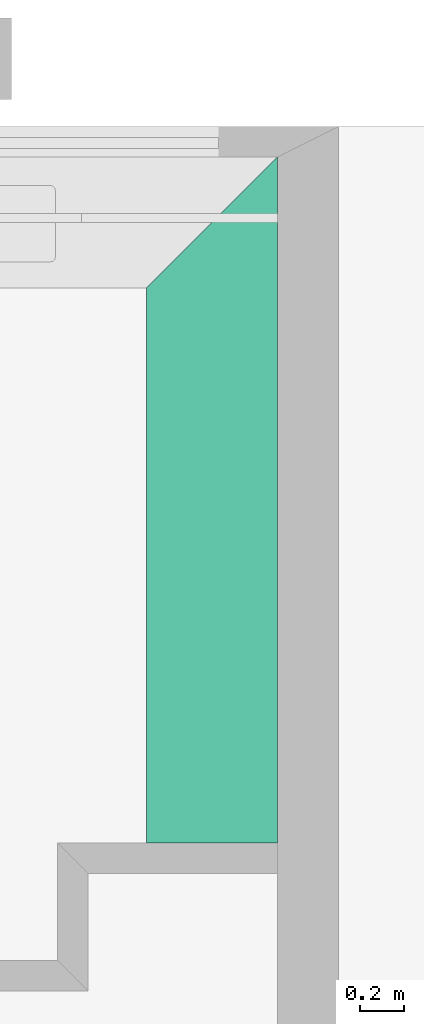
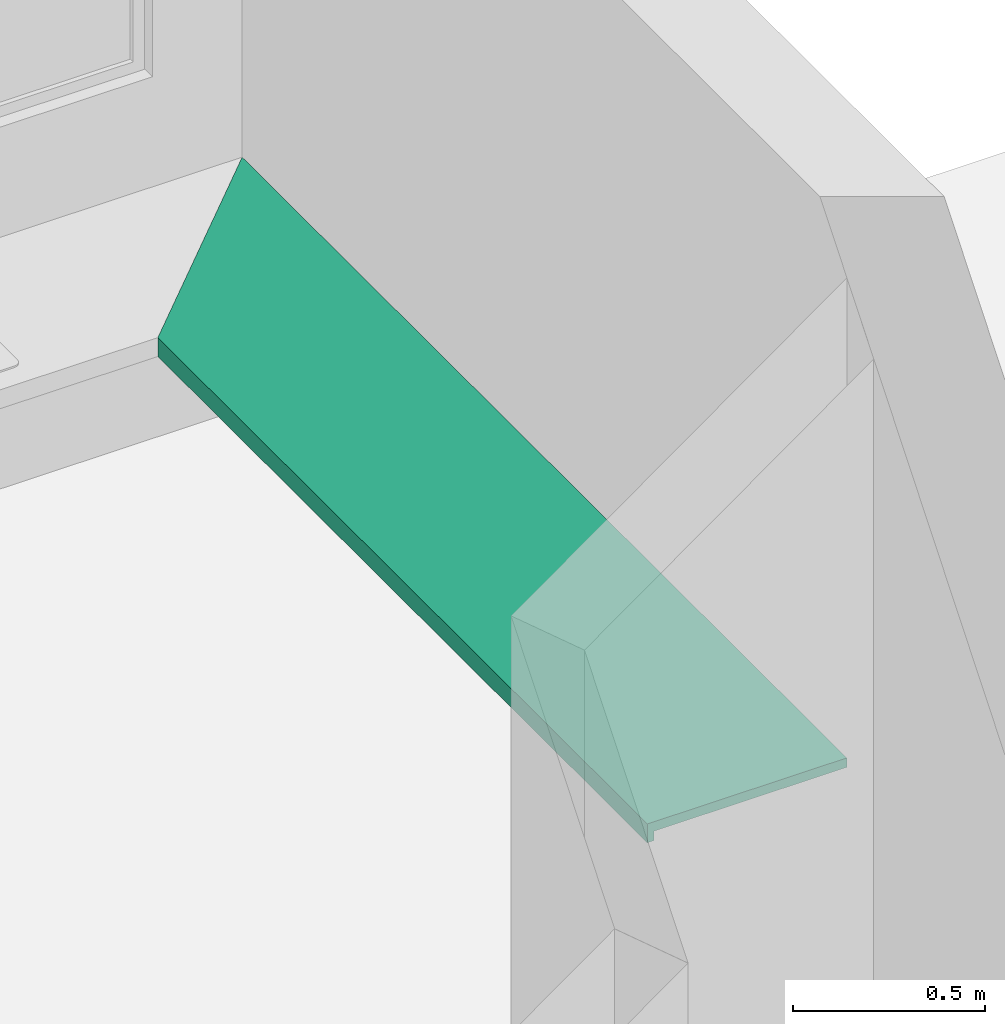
# One storey, part 14 of 16: 1 flow terminal.
"""IFC2X3 building model written with IfcOpenShell, lengths in millimetres."""

from ifc_helpers import new_model, entity, si_unit, converted_unit, derived_unit, money_unit, direction, frame, origin_with_axes, place, context, subcontext, project, spatial, faceted_brep, type_object, element, save


model = new_model("IFC2X3")

# Units and contexts
model_context = context("Model", 3, precision=0.01, world=origin_with_axes(), true_north=direction((0.293984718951, 0.955810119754)))
body_context = subcontext(model_context, "Body", "Model", "MODEL_VIEW")
ifc_project = project(units=[si_unit("LENGTHUNIT", "METRE", prefix="MILLI"), si_unit("AREAUNIT", "SQUARE_METRE"), si_unit("VOLUMEUNIT", "CUBIC_METRE"), converted_unit("PLANEANGLEUNIT", "DEGREE", entity("IfcPlaneAngleMeasure", 0.0174532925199), si_unit("PLANEANGLEUNIT", "RADIAN"), dimensions=[0, 0, 0, 0, 0, 0, 0]), si_unit("SOLIDANGLEUNIT", "STERADIAN"), money_unit("USD"), converted_unit("TIMEUNIT", "Year", entity("IfcTimeMeasure", 31556926.0), si_unit("TIMEUNIT", "SECOND"), dimensions=[0, 0, 1, 0, 0, 0, 0]), si_unit("MASSUNIT", "GRAM", prefix="KILO"), si_unit("THERMODYNAMICTEMPERATUREUNIT", "DEGREE_CELSIUS"), si_unit("LUMINOUSINTENSITYUNIT", "LUMEN"), si_unit("ENERGYUNIT", "JOULE", prefix="MEGA"), derived_unit("THERMALCONDUCTANCEUNIT", [(si_unit("POWERUNIT", "WATT"), 1), (si_unit("LENGTHUNIT", "METRE"), -1), (si_unit("THERMODYNAMICTEMPERATUREUNIT", "KELVIN"), -1)]), derived_unit("SPECIFICHEATCAPACITYUNIT", [(si_unit("ENERGYUNIT", "JOULE"), 1), (si_unit("MASSUNIT", "GRAM", prefix="KILO"), -1), (si_unit("THERMODYNAMICTEMPERATUREUNIT", "KELVIN"), -1)]), derived_unit("MASSDENSITYUNIT", [(si_unit("MASSUNIT", "GRAM", prefix="KILO"), 1), (si_unit("VOLUMEUNIT", "CUBIC_METRE"), -1)])], contexts=[model_context])

# Site, building, storey
site_placement = place(None, origin_with_axes())
site = spatial("IfcSite", under=ifc_project, at=site_placement, Name="Local", CompositionType="ELEMENT")
building_placement = place(site_placement, origin_with_axes())
building = spatial("IfcBuilding", under=site, at=building_placement, Name="Construção", CompositionType="ELEMENT")
storey_placement = place(building_placement, origin_with_axes())
storey = spatial("IfcBuildingStorey", under=building, at=storey_placement, Name="Pavimento Térreo", CompositionType="ELEMENT", Elevation=0.0)

# Flow terminal
sanitary_terminal_type = type_object("IfcSanitaryTerminalType", Name="Bancada 23", PredefinedType="SINK")
flow_terminal_placement = place(storey_placement, frame((15199.6450727, 12660.6321979, 0.0), z_axis=(0.0, 0.0, 1.0), x_axis=(0.0, -1.0, 0.0)))
element("IfcFlowTerminal", 1, at=flow_terminal_placement, inside=storey, type_object=sanitary_terminal_type, Name="Bancada-cozinha", context=body_context, shape_type="Brep", body=[
    faceted_brep([(0.0, 0.0, 900.0), (600.0, -600.0, 900.0), (3149.99999999, -600.0, 900.0), (3149.99999999, 0.0, 900.0), (0.0, 0.0, 870.0), (580.0, -580.0, 870.0), (3149.99999999, -580.0, 870.0), (3149.99999999, 0.0, 870.0)], [[[0, 1, 2, 3]], [[1, 0, 4, 5]], [[1, 5, 6, 2]], [[6, 7, 3, 2]], [[4, 0, 3, 7]], [[5, 4, 7, 6]]]),
    faceted_brep([(580.0, -580.0, 870.0), (600.0, -600.0, 900.0), (3149.99999999, -600.0, 900.0), (3149.99999999, -580.0, 870.0), (580.0, -580.0, 840.0), (600.0, -600.0, 840.0), (3149.99999999, -600.0, 840.0), (3149.99999999, -580.0, 840.0)], [[[0, 1, 2, 3]], [[4, 5, 1, 0]], [[1, 5, 6, 2]], [[6, 7, 3, 2]], [[4, 0, 3, 7]], [[5, 4, 7, 6]]]),
])

save(model, "model.ifc")
